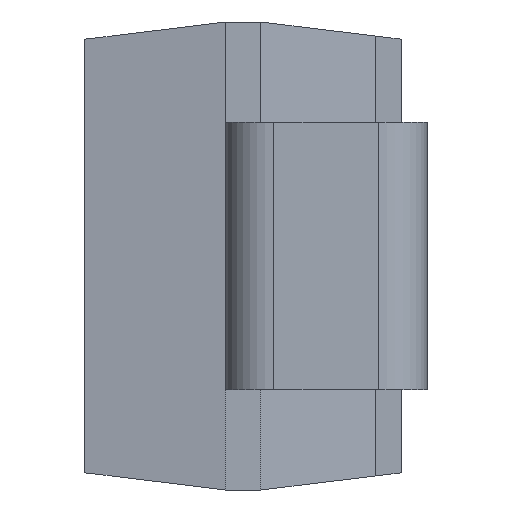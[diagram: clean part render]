
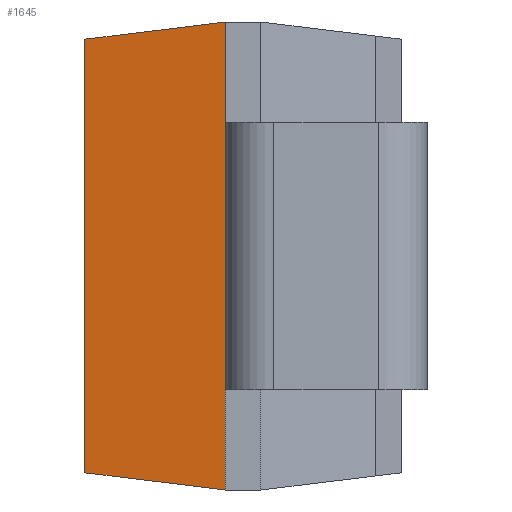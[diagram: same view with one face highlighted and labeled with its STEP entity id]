
A CAD part, left-side view. The second image highlights one B-rep face of the part: STEP entity #1645.
In plain terms, the highlighted planar face has unit normal (-0.993, 0.122, 0).
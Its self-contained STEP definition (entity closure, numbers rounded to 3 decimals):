
#48 = FACE_OUTER_BOUND ( 'NONE', #633, .T. ) ;
#69 = VECTOR ( 'NONE', #566, 1000. ) ;
#92 = VECTOR ( 'NONE', #1015, 1000. ) ;
#122 = EDGE_CURVE ( 'NONE', #1694, #1254, #629, .T. ) ;
#215 = LINE ( 'NONE', #237, #1346 ) ;
#237 = CARTESIAN_POINT ( 'NONE',  ( -2.109, 1.995, 1.759 ) ) ;
#239 = EDGE_CURVE ( 'NONE', #358, #1531, #658, .T. ) ;
#289 = CARTESIAN_POINT ( 'NONE',  ( -2.029, 2.65, -1.679 ) ) ;
#358 = VERTEX_POINT ( 'NONE', #1260 ) ;
#395 = ORIENTED_EDGE ( 'NONE', *, *, #239, .T. ) ;
#534 = EDGE_CURVE ( 'NONE', #1531, #1254, #215, .T. ) ;
#557 = CARTESIAN_POINT ( 'NONE',  ( -2.162, 1.562, -1.813 ) ) ;
#566 = DIRECTION ( 'NONE',  ( 0., 0., 1. ) ) ;
#590 = PLANE ( 'NONE',  #1570 ) ;
#629 = LINE ( 'NONE', #1078, #69 ) ;
#633 = EDGE_LOOP ( 'NONE', ( #395, #971, #1535, #966 ) ) ;
#658 = LINE ( 'NONE', #1421, #92 ) ;
#740 = DIRECTION ( 'NONE',  ( 0.122, 0.993, 0. ) ) ;
#890 = DIRECTION ( 'NONE',  ( -0.121, -0.985, -0.121 ) ) ;
#966 = ORIENTED_EDGE ( 'NONE', *, *, #1358, .T. ) ;
#971 = ORIENTED_EDGE ( 'NONE', *, *, #534, .T. ) ;
#998 = DIRECTION ( 'NONE',  ( 0.121, 0.985, -0.121 ) ) ;
#1015 = DIRECTION ( 'NONE',  ( 0., 0., 1. ) ) ;
#1038 = LINE ( 'NONE', #1059, #1070 ) ;
#1059 = CARTESIAN_POINT ( 'NONE',  ( -2.162, 1.562, -1.813 ) ) ;
#1070 = VECTOR ( 'NONE', #890, 1000. ) ;
#1078 = CARTESIAN_POINT ( 'NONE',  ( -2.029, 2.65, -1.813 ) ) ;
#1099 = DIRECTION ( 'NONE',  ( 0.993, -0.122, 0. ) ) ;
#1254 = VERTEX_POINT ( 'NONE', #1584 ) ;
#1260 = CARTESIAN_POINT ( 'NONE',  ( -2.163, 1.562, -1.813 ) ) ;
#1346 = VECTOR ( 'NONE', #998, 1000. ) ;
#1358 = EDGE_CURVE ( 'NONE', #1694, #358, #1038, .T. ) ;
#1421 = CARTESIAN_POINT ( 'NONE',  ( -2.162, 1.562, -1.813 ) ) ;
#1531 = VERTEX_POINT ( 'NONE', #1683 ) ;
#1535 = ORIENTED_EDGE ( 'NONE', *, *, #122, .F. ) ;
#1570 = AXIS2_PLACEMENT_3D ( 'NONE', #557, #1099, #740 ) ;
#1584 = CARTESIAN_POINT ( 'NONE',  ( -2.029, 2.65, 1.679 ) ) ;
#1645 = ADVANCED_FACE ( 'NONE', ( #48 ), #590, .F. ) ;
#1683 = CARTESIAN_POINT ( 'NONE',  ( -2.163, 1.562, 1.813 ) ) ;
#1694 = VERTEX_POINT ( 'NONE', #289 ) ;
